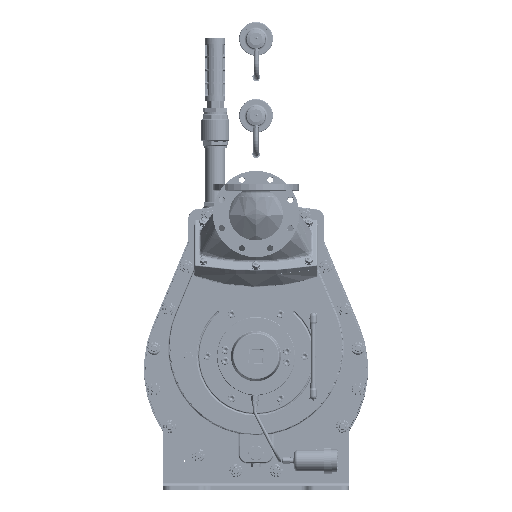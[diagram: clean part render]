
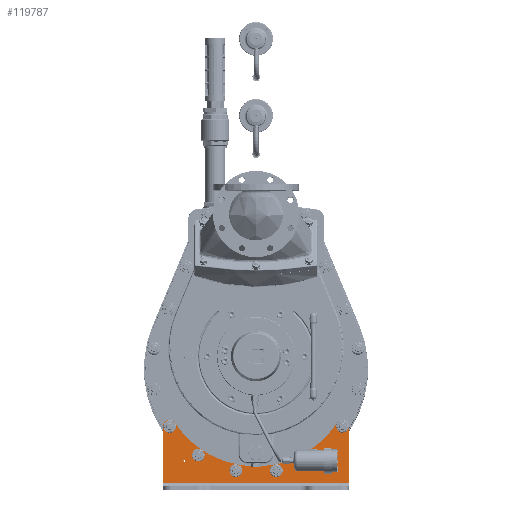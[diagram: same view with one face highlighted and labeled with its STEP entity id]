
A CAD part, top view. The second image highlights one B-rep face of the part: STEP entity #119787.
In plain terms, the highlighted planar face has unit normal (0, 0, 1) as drawn and (1, 0, 0) by its records, which use the part's own axes.
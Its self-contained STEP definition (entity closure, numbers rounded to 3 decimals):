
#13963=FACE_BOUND('',#24535,.T.);
#13964=FACE_BOUND('',#24536,.T.);
#13965=FACE_BOUND('',#24537,.T.);
#13966=FACE_BOUND('',#24538,.T.);
#13967=FACE_BOUND('',#24539,.T.);
#13968=FACE_BOUND('',#24540,.T.);
#13969=FACE_BOUND('',#24541,.T.);
#13970=FACE_BOUND('',#24542,.T.);
#14863=PLANE('',#128542);
#17435=FACE_OUTER_BOUND('',#24534,.T.);
#24534=EDGE_LOOP('',(#81694,#81695,#81696,#81697,#81698,#81699,#81700,#81701,
#81702,#81703));
#24535=EDGE_LOOP('',(#81704));
#24536=EDGE_LOOP('',(#81705));
#24537=EDGE_LOOP('',(#81706));
#24538=EDGE_LOOP('',(#81707));
#24539=EDGE_LOOP('',(#81708));
#24540=EDGE_LOOP('',(#81709));
#24541=EDGE_LOOP('',(#81710));
#24542=EDGE_LOOP('',(#81711));
#32532=LINE('',#166397,#40076);
#32534=LINE('',#166403,#40078);
#32535=LINE('',#166407,#40079);
#32536=LINE('',#166415,#40080);
#32537=LINE('',#166418,#40081);
#40076=VECTOR('',#138648,10.);
#40078=VECTOR('',#138654,10.);
#40079=VECTOR('',#138657,10.);
#40080=VECTOR('',#138664,10.);
#40081=VECTOR('',#138667,10.);
#47622=CIRCLE('',#128543,15.);
#47623=CIRCLE('',#128544,15.);
#47624=CIRCLE('',#128545,231.);
#47625=CIRCLE('',#128546,15.);
#47626=CIRCLE('',#128547,15.);
#47627=CIRCLE('',#128548,2.067);
#47628=CIRCLE('',#128549,2.067);
#47629=CIRCLE('',#128550,9.);
#47630=CIRCLE('',#128551,9.);
#47631=CIRCLE('',#128552,9.);
#47632=CIRCLE('',#128553,9.);
#47633=CIRCLE('',#128554,9.);
#47634=CIRCLE('',#128555,9.);
#51902=VERTEX_POINT('',#166394);
#51903=VERTEX_POINT('',#166396);
#51905=VERTEX_POINT('',#166402);
#51906=VERTEX_POINT('',#166404);
#51907=VERTEX_POINT('',#166406);
#51908=VERTEX_POINT('',#166408);
#51909=VERTEX_POINT('',#166410);
#51910=VERTEX_POINT('',#166412);
#51911=VERTEX_POINT('',#166414);
#51912=VERTEX_POINT('',#166416);
#51913=VERTEX_POINT('',#166419);
#51914=VERTEX_POINT('',#166421);
#51915=VERTEX_POINT('',#166423);
#51916=VERTEX_POINT('',#166425);
#51917=VERTEX_POINT('',#166427);
#51918=VERTEX_POINT('',#166429);
#51919=VERTEX_POINT('',#166431);
#51920=VERTEX_POINT('',#166433);
#63569=EDGE_CURVE('',#51902,#51903,#32532,.T.);
#63572=EDGE_CURVE('',#51905,#51902,#32534,.T.);
#63573=EDGE_CURVE('',#51906,#51905,#47622,.T.);
#63574=EDGE_CURVE('',#51907,#51906,#32535,.T.);
#63575=EDGE_CURVE('',#51908,#51907,#47623,.T.);
#63576=EDGE_CURVE('',#51908,#51909,#47624,.T.);
#63577=EDGE_CURVE('',#51910,#51909,#47625,.T.);
#63578=EDGE_CURVE('',#51911,#51910,#32536,.T.);
#63579=EDGE_CURVE('',#51912,#51911,#47626,.T.);
#63580=EDGE_CURVE('',#51903,#51912,#32537,.T.);
#63581=EDGE_CURVE('',#51913,#51913,#47627,.T.);
#63582=EDGE_CURVE('',#51914,#51914,#47628,.T.);
#63583=EDGE_CURVE('',#51915,#51915,#47629,.T.);
#63584=EDGE_CURVE('',#51916,#51916,#47630,.T.);
#63585=EDGE_CURVE('',#51917,#51917,#47631,.T.);
#63586=EDGE_CURVE('',#51918,#51918,#47632,.T.);
#63587=EDGE_CURVE('',#51919,#51919,#47633,.T.);
#63588=EDGE_CURVE('',#51920,#51920,#47634,.T.);
#81694=ORIENTED_EDGE('',*,*,#63569,.F.);
#81695=ORIENTED_EDGE('',*,*,#63572,.F.);
#81696=ORIENTED_EDGE('',*,*,#63573,.F.);
#81697=ORIENTED_EDGE('',*,*,#63574,.F.);
#81698=ORIENTED_EDGE('',*,*,#63575,.F.);
#81699=ORIENTED_EDGE('',*,*,#63576,.T.);
#81700=ORIENTED_EDGE('',*,*,#63577,.F.);
#81701=ORIENTED_EDGE('',*,*,#63578,.F.);
#81702=ORIENTED_EDGE('',*,*,#63579,.F.);
#81703=ORIENTED_EDGE('',*,*,#63580,.F.);
#81704=ORIENTED_EDGE('',*,*,#63581,.T.);
#81705=ORIENTED_EDGE('',*,*,#63582,.T.);
#81706=ORIENTED_EDGE('',*,*,#63583,.T.);
#81707=ORIENTED_EDGE('',*,*,#63584,.T.);
#81708=ORIENTED_EDGE('',*,*,#63585,.T.);
#81709=ORIENTED_EDGE('',*,*,#63586,.T.);
#81710=ORIENTED_EDGE('',*,*,#63587,.T.);
#81711=ORIENTED_EDGE('',*,*,#63588,.T.);
#119787=ADVANCED_FACE('',(#17435,#13963,#13964,#13965,#13966,#13967,#13968,
#13969,#13970),#14863,.T.);
#128542=AXIS2_PLACEMENT_3D('',#166401,#138652,#138653);
#128543=AXIS2_PLACEMENT_3D('',#166405,#138655,#138656);
#128544=AXIS2_PLACEMENT_3D('',#166409,#138658,#138659);
#128545=AXIS2_PLACEMENT_3D('',#166411,#138660,#138661);
#128546=AXIS2_PLACEMENT_3D('',#166413,#138662,#138663);
#128547=AXIS2_PLACEMENT_3D('',#166417,#138665,#138666);
#128548=AXIS2_PLACEMENT_3D('',#166420,#138668,#138669);
#128549=AXIS2_PLACEMENT_3D('',#166422,#138670,#138671);
#128550=AXIS2_PLACEMENT_3D('',#166424,#138672,#138673);
#128551=AXIS2_PLACEMENT_3D('',#166426,#138674,#138675);
#128552=AXIS2_PLACEMENT_3D('',#166428,#138676,#138677);
#128553=AXIS2_PLACEMENT_3D('',#166430,#138678,#138679);
#128554=AXIS2_PLACEMENT_3D('',#166432,#138680,#138681);
#128555=AXIS2_PLACEMENT_3D('',#166434,#138682,#138683);
#138648=DIRECTION('',(0.,0.,1.));
#138652=DIRECTION('center_axis',(1.,0.,0.));
#138653=DIRECTION('ref_axis',(0.,0.,-1.));
#138654=DIRECTION('',(0.,-1.,0.));
#138655=DIRECTION('center_axis',(-1.,0.,0.));
#138656=DIRECTION('ref_axis',(0.,0.707,-0.707));
#138657=DIRECTION('',(0.,0.,-1.));
#138658=DIRECTION('center_axis',(-1.,0.,0.));
#138659=DIRECTION('ref_axis',(0.,0.881,0.473));
#138660=DIRECTION('center_axis',(-1.,0.,0.));
#138661=DIRECTION('ref_axis',(0.,0.,-1.));
#138662=DIRECTION('center_axis',(-1.,0.,0.));
#138663=DIRECTION('ref_axis',(0.,0.881,-0.473));
#138664=DIRECTION('',(0.,0.,-1.));
#138665=DIRECTION('center_axis',(-1.,0.,0.));
#138666=DIRECTION('ref_axis',(0.,0.707,0.707));
#138667=DIRECTION('',(0.,1.,0.));
#138668=DIRECTION('center_axis',(-1.,0.,0.));
#138669=DIRECTION('ref_axis',(0.,0.,
-1.));
#138670=DIRECTION('center_axis',(-1.,0.,0.));
#138671=DIRECTION('ref_axis',(0.,0.,
-1.));
#138672=DIRECTION('center_axis',(-1.,0.,0.));
#138673=DIRECTION('ref_axis',(0.,0.,-1.));
#138674=DIRECTION('center_axis',(-1.,0.,0.));
#138675=DIRECTION('ref_axis',(0.,0.,-1.));
#138676=DIRECTION('center_axis',(-1.,0.,0.));
#138677=DIRECTION('ref_axis',(0.,0.,-1.));
#138678=DIRECTION('center_axis',(-1.,0.,0.));
#138679=DIRECTION('ref_axis',(0.,0.,-1.));
#138680=DIRECTION('center_axis',(-1.,0.,0.));
#138681=DIRECTION('ref_axis',(0.,0.,-1.));
#138682=DIRECTION('center_axis',(-1.,0.,0.));
#138683=DIRECTION('ref_axis',(0.,0.,-1.));
#166394=CARTESIAN_POINT('',(8.,16.,-220.));
#166396=CARTESIAN_POINT('',(8.,16.,220.));
#166397=CARTESIAN_POINT('',(8.,16.,0.));
#166401=CARTESIAN_POINT('Origin',(8.,58.,0.));
#166402=CARTESIAN_POINT('',(8.,150.,-220.));
#166403=CARTESIAN_POINT('',(8.,0.,-220.));
#166404=CARTESIAN_POINT('',(8.,165.,-205.));
#166405=CARTESIAN_POINT('Origin',(8.,150.,-205.));
#166406=CARTESIAN_POINT('',(8.,165.,-204.988));
#166407=CARTESIAN_POINT('',(8.,165.,-220.));
#166408=CARTESIAN_POINT('',(8.,158.293,-192.489));
#166409=CARTESIAN_POINT('Origin',(8.,150.,-204.988));
#166410=CARTESIAN_POINT('',(8.,158.293,192.489));
#166411=CARTESIAN_POINT('Origin',(8.,286.,0.));
#166412=CARTESIAN_POINT('',(8.,165.,204.988));
#166413=CARTESIAN_POINT('Origin',(8.,150.,204.988));
#166414=CARTESIAN_POINT('',(8.,165.,205.));
#166415=CARTESIAN_POINT('',(8.,165.,-220.));
#166416=CARTESIAN_POINT('',(8.,150.,220.));
#166417=CARTESIAN_POINT('Origin',(8.,150.,205.));
#166418=CARTESIAN_POINT('',(8.,165.,220.));
#166419=CARTESIAN_POINT('',(8.,68.,-167.933));
#166420=CARTESIAN_POINT('Origin',(8.,68.,-170.));
#166421=CARTESIAN_POINT('',(8.,68.,172.067));
#166422=CARTESIAN_POINT('Origin',(8.,68.,170.));
#166423=CARTESIAN_POINT('',(8.,149.33,213.542));
#166424=CARTESIAN_POINT('Origin',(8.,149.33,204.542));
#166425=CARTESIAN_POINT('',(8.,44.727,56.992));
#166426=CARTESIAN_POINT('Origin',(8.,44.727,47.992));
#166427=CARTESIAN_POINT('',(8.,81.458,-127.67));
#166428=CARTESIAN_POINT('Origin',(8.,81.458,-136.67));
#166429=CARTESIAN_POINT('',(8.,149.33,-195.542));
#166430=CARTESIAN_POINT('Origin',(8.,149.33,-204.542));
#166431=CARTESIAN_POINT('',(8.,44.727,-38.992));
#166432=CARTESIAN_POINT('Origin',(8.,44.727,-47.992));
#166433=CARTESIAN_POINT('',(8.,81.458,145.67));
#166434=CARTESIAN_POINT('Origin',(8.,81.458,136.67));
